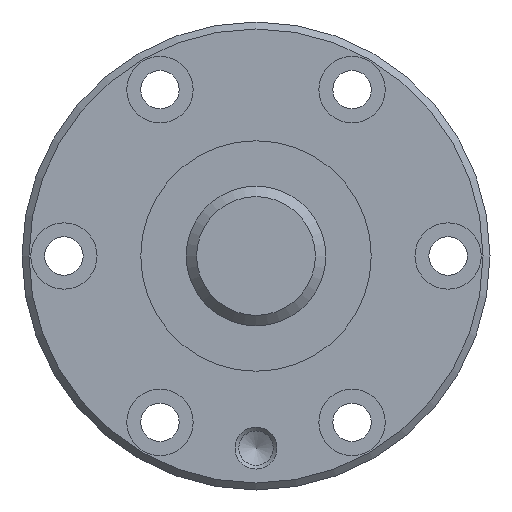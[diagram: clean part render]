
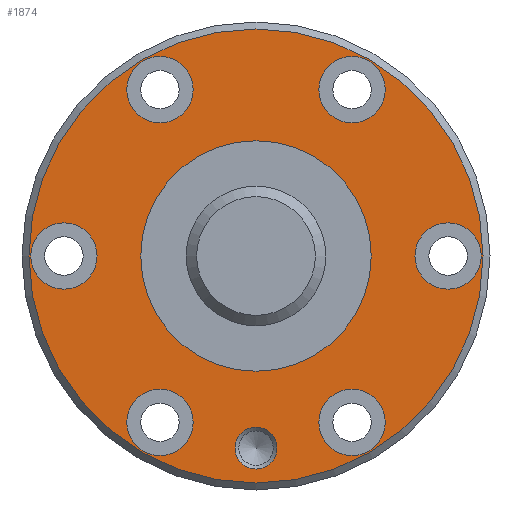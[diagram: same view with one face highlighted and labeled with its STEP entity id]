
A CAD part, left-side view. The second image highlights one B-rep face of the part: STEP entity #1874.
In plain terms, the highlighted planar face has unit normal (-1, 0, 0).
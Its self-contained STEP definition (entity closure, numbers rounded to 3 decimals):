
#452=ORIENTED_EDGE('',*,*,#936,.T.);
#453=ORIENTED_EDGE('',*,*,#937,.T.);
#454=ORIENTED_EDGE('',*,*,#938,.T.);
#455=ORIENTED_EDGE('',*,*,#939,.T.);
#456=ORIENTED_EDGE('',*,*,#940,.T.);
#457=ORIENTED_EDGE('',*,*,#941,.T.);
#458=ORIENTED_EDGE('',*,*,#942,.T.);
#459=ORIENTED_EDGE('',*,*,#943,.T.);
#460=ORIENTED_EDGE('',*,*,#944,.F.);
#936=EDGE_CURVE('',#1179,#1179,#1337,.T.);
#937=EDGE_CURVE('',#1180,#1180,#1338,.T.);
#938=EDGE_CURVE('',#1181,#1181,#1339,.T.);
#939=EDGE_CURVE('',#1182,#1182,#1340,.T.);
#940=EDGE_CURVE('',#1183,#1183,#1341,.T.);
#941=EDGE_CURVE('',#1184,#1184,#1342,.T.);
#942=EDGE_CURVE('',#1185,#1185,#1343,.T.);
#943=EDGE_CURVE('',#1186,#1186,#1344,.T.);
#944=EDGE_CURVE('',#1187,#1187,#1345,.T.);
#1179=VERTEX_POINT('',#2947);
#1180=VERTEX_POINT('',#2949);
#1181=VERTEX_POINT('',#2951);
#1182=VERTEX_POINT('',#2953);
#1183=VERTEX_POINT('',#2955);
#1184=VERTEX_POINT('',#2957);
#1185=VERTEX_POINT('',#2959);
#1186=VERTEX_POINT('',#2961);
#1187=VERTEX_POINT('',#2963);
#1337=CIRCLE('',#2032,16.5);
#1338=CIRCLE('',#2033,4.75);
#1339=CIRCLE('',#2034,4.75);
#1340=CIRCLE('',#2035,3.);
#1341=CIRCLE('',#2036,4.75);
#1342=CIRCLE('',#2037,4.75);
#1343=CIRCLE('',#2038,4.75);
#1344=CIRCLE('',#2039,4.75);
#1345=CIRCLE('',#2040,32.5);
#1433=EDGE_LOOP('',(#452));
#1434=EDGE_LOOP('',(#453));
#1435=EDGE_LOOP('',(#454));
#1436=EDGE_LOOP('',(#455));
#1437=EDGE_LOOP('',(#456));
#1438=EDGE_LOOP('',(#457));
#1439=EDGE_LOOP('',(#458));
#1440=EDGE_LOOP('',(#459));
#1441=EDGE_LOOP('',(#460));
#1621=FACE_BOUND('',#1433,.T.);
#1622=FACE_BOUND('',#1434,.T.);
#1623=FACE_BOUND('',#1435,.T.);
#1624=FACE_BOUND('',#1436,.T.);
#1625=FACE_BOUND('',#1437,.T.);
#1626=FACE_BOUND('',#1438,.T.);
#1627=FACE_BOUND('',#1439,.T.);
#1628=FACE_BOUND('',#1440,.T.);
#1629=FACE_BOUND('',#1441,.T.);
#1800=PLANE('',#2031);
#1874=ADVANCED_FACE('',(#1621,#1622,#1623,#1624,#1625,#1626,#1627,#1628,
#1629),#1800,.T.);
#2031=AXIS2_PLACEMENT_3D('',#2945,#2296,#2297);
#2032=AXIS2_PLACEMENT_3D('',#2946,#2298,#2299);
#2033=AXIS2_PLACEMENT_3D('',#2948,#2300,#2301);
#2034=AXIS2_PLACEMENT_3D('',#2950,#2302,#2303);
#2035=AXIS2_PLACEMENT_3D('',#2952,#2304,#2305);
#2036=AXIS2_PLACEMENT_3D('',#2954,#2306,#2307);
#2037=AXIS2_PLACEMENT_3D('',#2956,#2308,#2309);
#2038=AXIS2_PLACEMENT_3D('',#2958,#2310,#2311);
#2039=AXIS2_PLACEMENT_3D('',#2960,#2312,#2313);
#2040=AXIS2_PLACEMENT_3D('',#2962,#2314,#2315);
#2296=DIRECTION('',(-1.,0.,0.));
#2297=DIRECTION('',(0.,0.,1.));
#2298=DIRECTION('',(1.,0.,0.));
#2299=DIRECTION('',(0.,0.,-1.));
#2300=DIRECTION('',(1.,0.,0.));
#2301=DIRECTION('',(0.,0.,-1.));
#2302=DIRECTION('',(1.,0.,0.));
#2303=DIRECTION('',(0.,0.,-1.));
#2304=DIRECTION('',(1.,0.,0.));
#2305=DIRECTION('',(0.,0.,-1.));
#2306=DIRECTION('',(1.,0.,0.));
#2307=DIRECTION('',(0.,0.,-1.));
#2308=DIRECTION('',(1.,0.,0.));
#2309=DIRECTION('',(0.,0.,-1.));
#2310=DIRECTION('',(1.,0.,0.));
#2311=DIRECTION('',(0.,0.,-1.));
#2312=DIRECTION('',(1.,0.,0.));
#2313=DIRECTION('',(0.,0.,-1.));
#2314=DIRECTION('',(1.,0.,0.));
#2315=DIRECTION('',(0.,0.,-1.));
#2945=CARTESIAN_POINT('',(0.,32.5,0.));
#2946=CARTESIAN_POINT('',(0.,0.,0.));
#2947=CARTESIAN_POINT('',(0.,0.,-16.5));
#2948=CARTESIAN_POINT('',(0.,-23.816,-13.75));
#2949=CARTESIAN_POINT('',(0.,-23.816,-18.5));
#2950=CARTESIAN_POINT('',(0.,23.816,13.75));
#2951=CARTESIAN_POINT('',(0.,23.816,9.));
#2952=CARTESIAN_POINT('',(0.,-27.5,0.));
#2953=CARTESIAN_POINT('',(0.,-27.5,-3.));
#2954=CARTESIAN_POINT('',(0.,0.,27.5));
#2955=CARTESIAN_POINT('',(0.,0.,22.75));
#2956=CARTESIAN_POINT('',(0.,-23.816,13.75));
#2957=CARTESIAN_POINT('',(0.,-23.816,9.));
#2958=CARTESIAN_POINT('',(0.,0.,-27.5));
#2959=CARTESIAN_POINT('',(0.,0.,-32.25));
#2960=CARTESIAN_POINT('',(0.,23.816,-13.75));
#2961=CARTESIAN_POINT('',(0.,23.816,-18.5));
#2962=CARTESIAN_POINT('',(0.,0.,0.));
#2963=CARTESIAN_POINT('',(0.,0.,-32.5));
